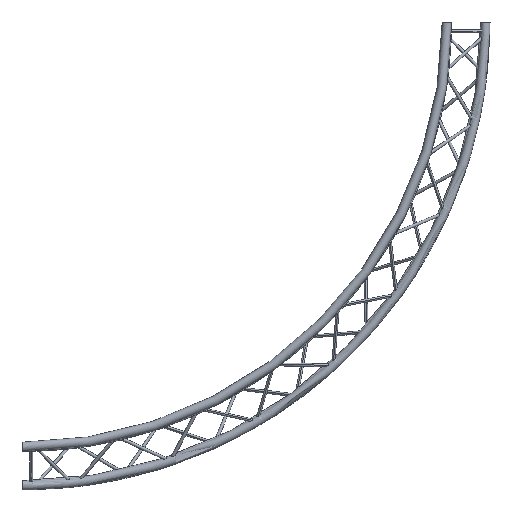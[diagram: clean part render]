
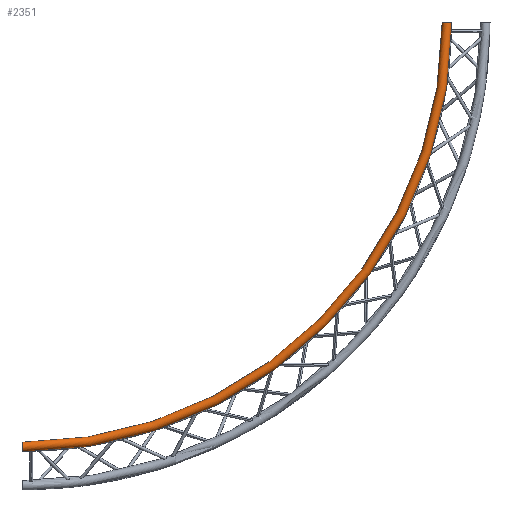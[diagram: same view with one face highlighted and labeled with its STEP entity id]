
A CAD part, front view. The second image highlights one B-rep face of the part: STEP entity #2351.
In plain terms, the highlighted toroidal (fillet/blend) face has major radius 2269.75 mm and minor radius 25 mm.
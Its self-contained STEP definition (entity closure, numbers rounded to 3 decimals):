
#2287 = ORIENTED_EDGE ( 'NONE', *, *, #2288, .T. ) ;
#2288 = EDGE_CURVE ( 'NONE', #2295, #2373, #4965, .T. ) ;
#2295 = VERTEX_POINT ( 'NONE', #4999 ) ;
#2301 = EDGE_LOOP ( 'NONE', ( #2287, #2309, #2330, #2364 ) ) ;
#2309 = ORIENTED_EDGE ( 'NONE', *, *, #2317, .T. ) ;
#2317 = EDGE_CURVE ( 'NONE', #2373, #2329, #5430, .T. ) ;
#2329 = VERTEX_POINT ( 'NONE', #5425 ) ;
#2330 = ORIENTED_EDGE ( 'NONE', *, *, #2362, .F. ) ;
#2351 = ADVANCED_FACE ( 'NONE', ( #5699 ), #5698, .T. ) ;
#2362 = EDGE_CURVE ( 'NONE', #2363, #2329, #5650, .T. ) ;
#2363 = VERTEX_POINT ( 'NONE', #5645 ) ;
#2364 = ORIENTED_EDGE ( 'NONE', *, *, #2379, .F. ) ;
#2373 = VERTEX_POINT ( 'NONE', #5644 ) ;
#2379 = EDGE_CURVE ( 'NONE', #2295, #2363, #5859, .T. ) ;
#4965 = CIRCLE ( 'NONE', #5004, 25. ) ;
#4999 = CARTESIAN_POINT ( 'NONE',  ( 0., -118.5, -2244.752 ) ) ;
#5001 = DIRECTION ( 'NONE',  ( 0., 0., -1. ) ) ;
#5002 = DIRECTION ( 'NONE',  ( 1., 0., 0. ) ) ;
#5003 = CARTESIAN_POINT ( 'NONE',  ( 0., -118.5, -2269.752 ) ) ;
#5004 = AXIS2_PLACEMENT_3D ( 'NONE', #5003, #5002, #5001 ) ;
#5425 = CARTESIAN_POINT ( 'NONE',  ( 2294.752, -118.5, 0. ) ) ;
#5427 = DIRECTION ( 'NONE',  ( 0., 0., -1. ) ) ;
#5428 = DIRECTION ( 'NONE',  ( 0., -1., 0. ) ) ;
#5429 = AXIS2_PLACEMENT_3D ( 'NONE', #5576, #5428, #5427 ) ;
#5430 = CIRCLE ( 'NONE', #5429, 2294.752 ) ;
#5576 = CARTESIAN_POINT ( 'NONE',  ( 0., -118.5, 0. ) ) ;
#5644 = CARTESIAN_POINT ( 'NONE',  ( 0., -118.5, -2294.752 ) ) ;
#5645 = CARTESIAN_POINT ( 'NONE',  ( 2244.752, -118.5, 0. ) ) ;
#5646 = DIRECTION ( 'NONE',  ( 1., 0., 0. ) ) ;
#5647 = DIRECTION ( 'NONE',  ( 0., 0., 1. ) ) ;
#5648 = CARTESIAN_POINT ( 'NONE',  ( 2269.752, -118.5, 0. ) ) ;
#5649 = AXIS2_PLACEMENT_3D ( 'NONE', #5648, #5647, #5646 ) ;
#5650 = CIRCLE ( 'NONE', #5649, 25. ) ;
#5694 = DIRECTION ( 'NONE',  ( 0., 0., -1. ) ) ;
#5695 = DIRECTION ( 'NONE',  ( 0., -1., 0. ) ) ;
#5696 = CARTESIAN_POINT ( 'NONE',  ( 0., -118.5, 0. ) ) ;
#5697 = AXIS2_PLACEMENT_3D ( 'NONE', #5696, #5695, #5694 ) ;
#5698 = TOROIDAL_SURFACE ( 'NONE', #5697, 2269.752, 25. ) ;
#5699 = FACE_OUTER_BOUND ( 'NONE', #2301, .T. ) ;
#5855 = DIRECTION ( 'NONE',  ( 0., 0., -1. ) ) ;
#5856 = DIRECTION ( 'NONE',  ( 0., -1., 0. ) ) ;
#5857 = CARTESIAN_POINT ( 'NONE',  ( 0., -118.5, 0. ) ) ;
#5858 = AXIS2_PLACEMENT_3D ( 'NONE', #5857, #5856, #5855 ) ;
#5859 = CIRCLE ( 'NONE', #5858, 2244.752 ) ;
